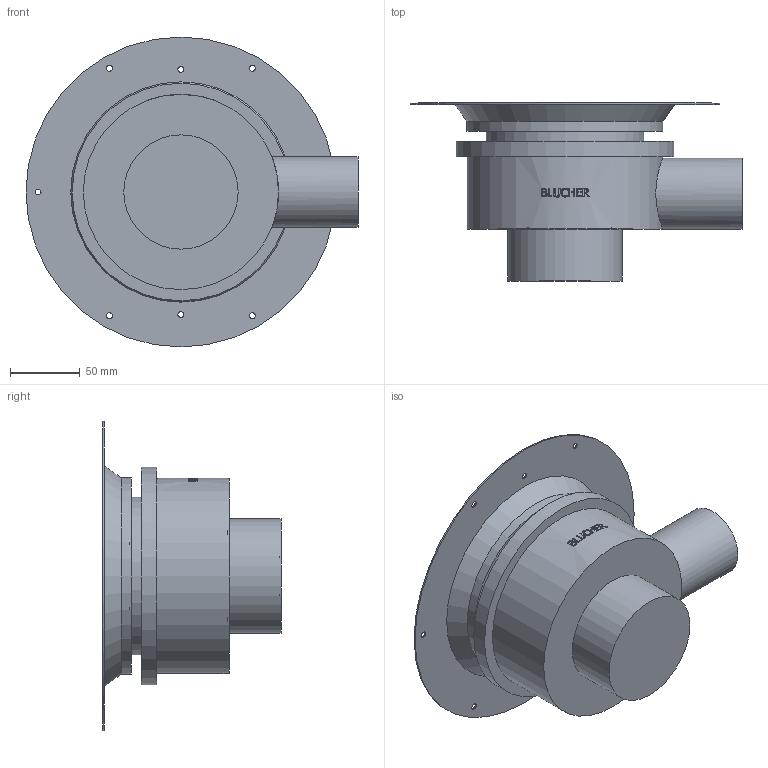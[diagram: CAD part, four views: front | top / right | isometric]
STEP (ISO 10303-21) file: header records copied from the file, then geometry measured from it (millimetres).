
FILE_DESCRIPTION((''),'2;1');
FILE_NAME('C:\Drawings\3D_CAD_Models\Blucher\Showers\BSR_Shower Drains with Round Top_Complete_091110\WebsiteFiles\3D\STEP\BSR-702.stp','2009-11-20T13:41:28',('hofmansp'),(''),'Autodesk Inventor 2010','Autodesk Inventor 2010','');
FILE_SCHEMA(('AUTOMOTIVE_DESIGN { 1 0 10303 214 1 1 1 1 }'));
Length unit declared in the file: inch
Products named in the file (1): BSR-702
Bounding box: 238.12 x 127.67 x 222.25 mm (x, y, z)
Volume: 175944.9 mm3; surface area: 274728 mm2
Topology: 1 solids, 1 shells, 213 faces, 633 edges, 443 vertices
Faces by surface type: bspline 113, plane 74, cylinder 24, cone 2
Full cylindrical faces by diameter (mm): 48.8 x1, 50.8 x1, 80 x1, 82 x1, 111 x1, 113 x2, 138 x1, 138.6 x1, 140 x1, 140.6 x1, 155.575 x1, 156 x1, 222.25 x1
Entity records: 20293 total; most frequent: CARTESIAN_POINT 15325, ORIENTED_EDGE 960, DIRECTION 733, EDGE_CURVE 480, EDGE_LOOP 448, VERTEX_POINT 372, AXIS2_PLACEMENT_3D 298, FACE_BOUND 235
